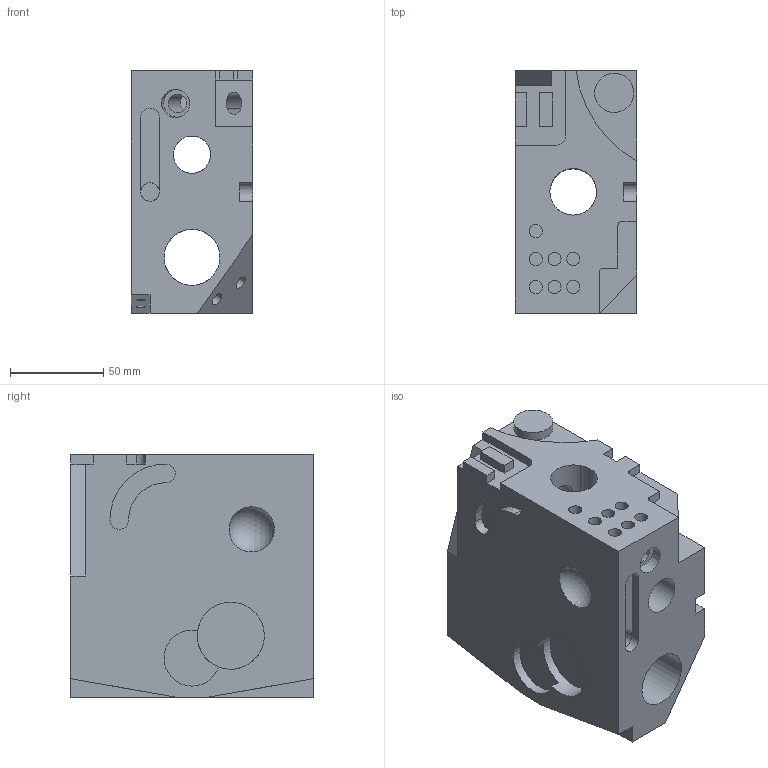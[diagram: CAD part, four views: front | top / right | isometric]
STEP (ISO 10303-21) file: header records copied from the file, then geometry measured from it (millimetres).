
FILE_DESCRIPTION(('CATIA V5 STEP Exchange'),'2;1');
FILE_NAME('.\Snecma_2.stp','2013-09-20T08:54:24+00:00',('none'),('none'),'CATIA Version 5 Release 19 SP 7 (IN-10)','CATIA V5 STEP AP214','none');
FILE_SCHEMA(('AUTOMOTIVE_DESIGN { 1 0 10303 214 3 1 1 1 }'));
Length unit declared in the file: millimetre
Products named in the file (1): CATPart4
Bounding box: 65 x 130 x 130 mm (x, y, z)
Volume: 799668.7 mm3; surface area: 104637.4 mm2
Topology: 1 solids, 4 shells, 189 faces, 458 edges, 314 vertices
Faces by surface type: cylinder 99, plane 87, cone 2, sphere 1
Entity records: 26207 total; most frequent: CARTESIAN_POINT 17272, POLYLINE 985, ORIENTED_EDGE 924, DIRECTION 751, PROPERTY_DEFINITION 619, REPRESENTATION 598, PROPERTY_DEFINITION_REPRESENTATION 598, EDGE_CURVE 475
